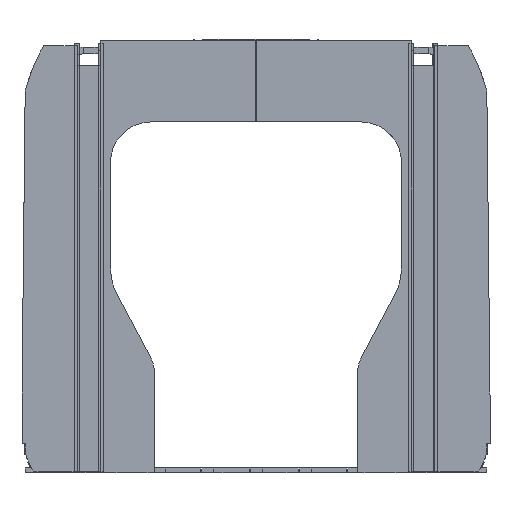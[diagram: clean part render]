
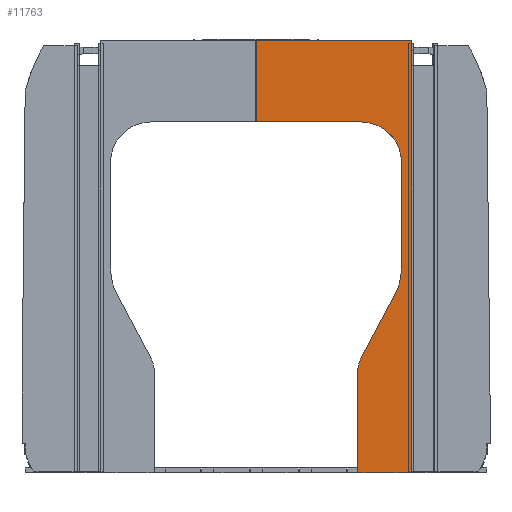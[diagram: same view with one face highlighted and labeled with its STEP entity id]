
A CAD part, left-side view. The second image highlights one B-rep face of the part: STEP entity #11763.
In plain terms, the highlighted planar face has unit normal (-1, 0, 0).
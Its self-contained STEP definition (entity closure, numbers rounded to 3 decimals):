
#11381=CARTESIAN_POINT('Vertex',(-19310.,-627.,1066.)) ;
#11397=CARTESIAN_POINT('Vertex',(-19310.,-810.996,1066.)) ;
#11400=CARTESIAN_POINT('Line Origine',(-19310.,-718.998,1066.)) ;
#11417=CARTESIAN_POINT('Line Origine',(-19310.,-627.,1380.447)) ;
#11421=CARTESIAN_POINT('Vertex',(-19310.,-627.,1694.894)) ;
#11448=CARTESIAN_POINT('Axis2P3D Location',(-19310.,-780.,1694.894)) ;
#11452=CARTESIAN_POINT('Vertex',(-19310.,-644.904,1766.714)) ;
#11479=CARTESIAN_POINT('Line Origine',(-19310.,-749.974,1964.354)) ;
#11483=CARTESIAN_POINT('Vertex',(-19310.,-855.043,2161.994)) ;
#11510=CARTESIAN_POINT('Axis2P3D Location',(-19310.,-546.,2326.287)) ;
#11514=CARTESIAN_POINT('Vertex',(-19310.,-896.,2326.287)) ;
#11541=CARTESIAN_POINT('Line Origine',(-19310.,-896.,2651.144)) ;
#11545=CARTESIAN_POINT('Vertex',(-19310.,-896.,2976.)) ;
#11572=CARTESIAN_POINT('Axis2P3D Location',(-19310.,-646.,2976.)) ;
#11576=CARTESIAN_POINT('Vertex',(-19310.,-646.,3226.)) ;
#11603=CARTESIAN_POINT('Line Origine',(-19310.,-323.83,3226.)) ;
#11607=CARTESIAN_POINT('Vertex',(-19310.,-1.661,3226.)) ;
#11634=CARTESIAN_POINT('Line Origine',(-19310.,-1.661,3476.)) ;
#11638=CARTESIAN_POINT('Vertex',(-19310.,-1.661,3726.)) ;
#11665=CARTESIAN_POINT('Line Origine',(-19310.,-480.,3726.)) ;
#11669=CARTESIAN_POINT('Vertex',(-19310.,-958.339,3726.)) ;
#11703=CARTESIAN_POINT('Line Origine',(-19310.,-958.339,2396.)) ;
#11707=CARTESIAN_POINT('Vertex',(-19310.,-958.339,1066.)) ;
#11727=CARTESIAN_POINT('Line Origine',(-19310.,-884.667,1066.)) ;
#11744=CARTESIAN_POINT('Axis2P3D Location',(-19310.,0.,0.)) ;
#11401=DIRECTION('Vector Direction',(0.,-1.,0.)) ;
#11418=DIRECTION('Vector Direction',(0.,0.,-1.)) ;
#11449=DIRECTION('Axis2P3D Direction',(1.,0.,0.)) ;
#11480=DIRECTION('Vector Direction',(0.,0.469,-0.883)) ;
#11511=DIRECTION('Axis2P3D Direction',(1.,0.,0.)) ;
#11542=DIRECTION('Vector Direction',(0.,0.,-1.)) ;
#11573=DIRECTION('Axis2P3D Direction',(1.,0.,0.)) ;
#11604=DIRECTION('Vector Direction',(0.,1.,0.)) ;
#11635=DIRECTION('Vector Direction',(0.,0.,-1.)) ;
#11666=DIRECTION('Vector Direction',(0.,-1.,0.)) ;
#11704=DIRECTION('Vector Direction',(0.,0.,1.)) ;
#11728=DIRECTION('Vector Direction',(0.,-1.,0.)) ;
#11745=DIRECTION('Axis2P3D Direction',(1.,0.,0.)) ;
#11746=DIRECTION('Axis2P3D XDirection',(0.,1.,0.)) ;
#11450=AXIS2_PLACEMENT_3D('Circle Axis2P3D',#11448,#11449,$) ;
#11512=AXIS2_PLACEMENT_3D('Circle Axis2P3D',#11510,#11511,$) ;
#11574=AXIS2_PLACEMENT_3D('Circle Axis2P3D',#11572,#11573,$) ;
#11747=AXIS2_PLACEMENT_3D('Plane Axis2P3D',#11744,#11745,#11746) ;
#11750=ORIENTED_EDGE('',*,*,#11731,.T.) ;
#11751=ORIENTED_EDGE('',*,*,#11709,.T.) ;
#11752=ORIENTED_EDGE('',*,*,#11671,.F.) ;
#11753=ORIENTED_EDGE('',*,*,#11640,.F.) ;
#11754=ORIENTED_EDGE('',*,*,#11609,.F.) ;
#11755=ORIENTED_EDGE('',*,*,#11578,.F.) ;
#11756=ORIENTED_EDGE('',*,*,#11547,.F.) ;
#11757=ORIENTED_EDGE('',*,*,#11516,.F.) ;
#11758=ORIENTED_EDGE('',*,*,#11485,.F.) ;
#11759=ORIENTED_EDGE('',*,*,#11454,.F.) ;
#11760=ORIENTED_EDGE('',*,*,#11423,.F.) ;
#11761=ORIENTED_EDGE('',*,*,#11404,.F.) ;
#11402=VECTOR('Line Direction',#11401,1.) ;
#11419=VECTOR('Line Direction',#11418,1.) ;
#11481=VECTOR('Line Direction',#11480,1.) ;
#11543=VECTOR('Line Direction',#11542,1.) ;
#11605=VECTOR('Line Direction',#11604,1.) ;
#11636=VECTOR('Line Direction',#11635,1.) ;
#11667=VECTOR('Line Direction',#11666,1.) ;
#11705=VECTOR('Line Direction',#11704,1.) ;
#11729=VECTOR('Line Direction',#11728,1.) ;
#11763=ADVANCED_FACE('Thermal insulation',(#11762),#11748,.F.) ;
#11451=CIRCLE('generated circle',#11450,153.) ;
#11513=CIRCLE('generated circle',#11512,350.) ;
#11575=CIRCLE('generated circle',#11574,250.) ;
#11404=EDGE_CURVE('',#11398,#11382,#11403,.F.) ;
#11423=EDGE_CURVE('',#11382,#11422,#11420,.F.) ;
#11454=EDGE_CURVE('',#11422,#11453,#11451,.T.) ;
#11485=EDGE_CURVE('',#11453,#11484,#11482,.F.) ;
#11516=EDGE_CURVE('',#11484,#11515,#11513,.F.) ;
#11547=EDGE_CURVE('',#11515,#11546,#11544,.F.) ;
#11578=EDGE_CURVE('',#11546,#11577,#11575,.F.) ;
#11609=EDGE_CURVE('',#11577,#11608,#11606,.T.) ;
#11640=EDGE_CURVE('',#11608,#11639,#11637,.F.) ;
#11671=EDGE_CURVE('',#11639,#11670,#11668,.T.) ;
#11709=EDGE_CURVE('',#11708,#11670,#11706,.T.) ;
#11731=EDGE_CURVE('',#11398,#11708,#11730,.T.) ;
#11749=EDGE_LOOP('',(#11750,#11751,#11752,#11753,#11754,#11755,#11756,#11757,#11758,#11759,#11760,#11761)) ;
#11762=FACE_OUTER_BOUND('',#11749,.T.) ;
#11403=LINE('Line',#11400,#11402) ;
#11420=LINE('Line',#11417,#11419) ;
#11482=LINE('Line',#11479,#11481) ;
#11544=LINE('Line',#11541,#11543) ;
#11606=LINE('Line',#11603,#11605) ;
#11637=LINE('Line',#11634,#11636) ;
#11668=LINE('Line',#11665,#11667) ;
#11706=LINE('Line',#11703,#11705) ;
#11730=LINE('Line',#11727,#11729) ;
#11748=PLANE('',#11747) ;
#11382=VERTEX_POINT('',#11381) ;
#11398=VERTEX_POINT('',#11397) ;
#11422=VERTEX_POINT('',#11421) ;
#11453=VERTEX_POINT('',#11452) ;
#11484=VERTEX_POINT('',#11483) ;
#11515=VERTEX_POINT('',#11514) ;
#11546=VERTEX_POINT('',#11545) ;
#11577=VERTEX_POINT('',#11576) ;
#11608=VERTEX_POINT('',#11607) ;
#11639=VERTEX_POINT('',#11638) ;
#11670=VERTEX_POINT('',#11669) ;
#11708=VERTEX_POINT('',#11707) ;
